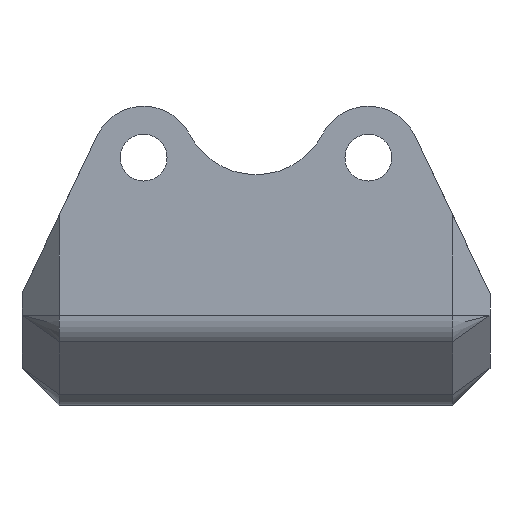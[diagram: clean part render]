
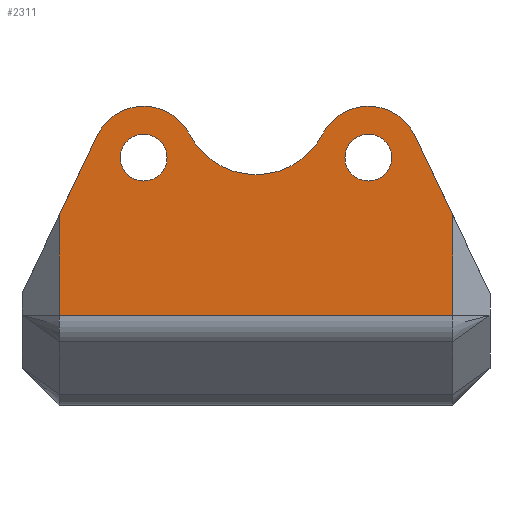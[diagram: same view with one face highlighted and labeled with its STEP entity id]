
A CAD part, front view. The second image highlights one B-rep face of the part: STEP entity #2311.
In plain terms, the highlighted planar face has unit normal (0, -1, 0).
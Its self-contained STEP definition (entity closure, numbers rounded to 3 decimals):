
#3 = VECTOR ( 'NONE', #1896, 1000. ) ;
#34 = VERTEX_POINT ( 'NONE', #1044 ) ;
#62 = VERTEX_POINT ( 'NONE', #460 ) ;
#104 = CARTESIAN_POINT ( 'NONE',  ( 0., -16.75, 13.342 ) ) ;
#118 = CIRCLE ( 'NONE', #1735, 4. ) ;
#136 = VERTEX_POINT ( 'NONE', #2344 ) ;
#140 = CARTESIAN_POINT ( 'NONE',  ( -6., -16.75, 10.25 ) ) ;
#179 = ORIENTED_EDGE ( 'NONE', *, *, #727, .F. ) ;
#215 = LINE ( 'NONE', #2619, #1823 ) ;
#232 = EDGE_CURVE ( 'NONE', #1417, #2103, #2556, .T. ) ;
#263 = ORIENTED_EDGE ( 'NONE', *, *, #232, .T. ) ;
#309 = CARTESIAN_POINT ( 'NONE',  ( -6., -16.75, 10.25 ) ) ;
#399 = EDGE_CURVE ( 'NONE', #1670, #136, #1821, .T. ) ;
#432 = CIRCLE ( 'NONE', #1317, 1.25 ) ;
#435 = ORIENTED_EDGE ( 'NONE', *, *, #522, .T. ) ;
#460 = CARTESIAN_POINT ( 'NONE',  ( -10.5, -16.75, 7.198 ) ) ;
#467 = EDGE_LOOP ( 'NONE', ( #435, #1178, #1409, #1774, #263, #1226, #179, #1834, #2136 ) ) ;
#468 = LINE ( 'NONE', #872, #1941 ) ;
#472 = CARTESIAN_POINT ( 'NONE',  ( -3.556, -16.75, 11.51 ) ) ;
#487 = EDGE_CURVE ( 'NONE', #34, #981, #1860, .T. ) ;
#522 = EDGE_CURVE ( 'NONE', #136, #62, #468, .T. ) ;
#524 = EDGE_CURVE ( 'NONE', #1670, #2465, #118, .T. ) ;
#543 = ORIENTED_EDGE ( 'NONE', *, *, #2495, .T. ) ;
#555 = DIRECTION ( 'NONE',  ( 0., 0., 1. ) ) ;
#560 = DIRECTION ( 'NONE',  ( 0., -1., 0. ) ) ;
#578 = VERTEX_POINT ( 'NONE', #672 ) ;
#579 = FACE_OUTER_BOUND ( 'NONE', #467, .T. ) ;
#594 = CARTESIAN_POINT ( 'NONE',  ( 6., -16.75, 11.5 ) ) ;
#655 = VERTEX_POINT ( 'NONE', #2363 ) ;
#659 = EDGE_CURVE ( 'NONE', #1340, #655, #1775, .T. ) ;
#672 = CARTESIAN_POINT ( 'NONE',  ( 6., -16.75, 9. ) ) ;
#684 = DIRECTION ( 'NONE',  ( 0., 0., -1. ) ) ;
#686 = DIRECTION ( 'NONE',  ( 0., 0., -1. ) ) ;
#689 = CARTESIAN_POINT ( 'NONE',  ( 11.353, -16.75, 5.408 ) ) ;
#727 = EDGE_CURVE ( 'NONE', #2465, #1579, #1567, .T. ) ;
#748 = CARTESIAN_POINT ( 'NONE',  ( -12.5, -16.75, 3. ) ) ;
#793 = EDGE_CURVE ( 'NONE', #62, #34, #215, .T. ) ;
#828 = CARTESIAN_POINT ( 'NONE',  ( 8.483, -16.75, 11.433 ) ) ;
#841 = EDGE_CURVE ( 'NONE', #578, #2285, #2463, .T. ) ;
#872 = CARTESIAN_POINT ( 'NONE',  ( -11.353, -16.75, 5.408 ) ) ;
#874 = CARTESIAN_POINT ( 'NONE',  ( 10.5, -16.75, 3. ) ) ;
#893 = CARTESIAN_POINT ( 'NONE',  ( 0., -16.75, 13.342 ) ) ;
#907 = CARTESIAN_POINT ( 'NONE',  ( 6., -16.75, 10.25 ) ) ;
#918 = DIRECTION ( 'NONE',  ( 0., -1., 0. ) ) ;
#936 = CARTESIAN_POINT ( 'NONE',  ( 6., -16.75, 10.25 ) ) ;
#970 = VECTOR ( 'NONE', #2527, 1000. ) ;
#981 = VERTEX_POINT ( 'NONE', #1504 ) ;
#986 = DIRECTION ( 'NONE',  ( 0., 0., 1. ) ) ;
#988 = CARTESIAN_POINT ( 'NONE',  ( -6., -16.75, 10.25 ) ) ;
#1044 = CARTESIAN_POINT ( 'NONE',  ( -10.5, -16.75, 1.828 ) ) ;
#1050 = VECTOR ( 'NONE', #1470, 1000. ) ;
#1064 = AXIS2_PLACEMENT_3D ( 'NONE', #907, #918, #686 ) ;
#1077 = DIRECTION ( 'NONE',  ( 0., -1., 0. ) ) ;
#1084 = EDGE_LOOP ( 'NONE', ( #1198, #1614 ) ) ;
#1114 = DIRECTION ( 'NONE',  ( 0., -1., 0. ) ) ;
#1178 = ORIENTED_EDGE ( 'NONE', *, *, #793, .T. ) ;
#1198 = ORIENTED_EDGE ( 'NONE', *, *, #659, .T. ) ;
#1226 = ORIENTED_EDGE ( 'NONE', *, *, #1930, .T. ) ;
#1317 = AXIS2_PLACEMENT_3D ( 'NONE', #988, #1810, #2396 ) ;
#1340 = VERTEX_POINT ( 'NONE', #2088 ) ;
#1357 = AXIS2_PLACEMENT_3D ( 'NONE', #309, #1358, #2165 ) ;
#1358 = DIRECTION ( 'NONE',  ( 0., 1., 0. ) ) ;
#1400 = AXIS2_PLACEMENT_3D ( 'NONE', #104, #1114, #1762 ) ;
#1406 = DIRECTION ( 'NONE',  ( 0., 0., -1. ) ) ;
#1409 = ORIENTED_EDGE ( 'NONE', *, *, #487, .T. ) ;
#1417 = VERTEX_POINT ( 'NONE', #1940 ) ;
#1442 = LINE ( 'NONE', #874, #1050 ) ;
#1470 = DIRECTION ( 'NONE',  ( 0., 0., 1. ) ) ;
#1494 = DIRECTION ( 'NONE',  ( -0.43, 0., -0.903 ) ) ;
#1504 = CARTESIAN_POINT ( 'NONE',  ( 10.5, -16.75, 1.828 ) ) ;
#1567 = CIRCLE ( 'NONE', #1400, 4. ) ;
#1579 = VERTEX_POINT ( 'NONE', #2412 ) ;
#1598 = DIRECTION ( 'NONE',  ( 0., 0., -1. ) ) ;
#1614 = ORIENTED_EDGE ( 'NONE', *, *, #2013, .T. ) ;
#1666 = AXIS2_PLACEMENT_3D ( 'NONE', #936, #2370, #1755 ) ;
#1670 = VERTEX_POINT ( 'NONE', #472 ) ;
#1719 = EDGE_LOOP ( 'NONE', ( #543, #2368 ) ) ;
#1735 = AXIS2_PLACEMENT_3D ( 'NONE', #893, #1077, #684 ) ;
#1755 = DIRECTION ( 'NONE',  ( 0., 0., 1. ) ) ;
#1761 = FACE_BOUND ( 'NONE', #1084, .T. ) ;
#1762 = DIRECTION ( 'NONE',  ( 0., 0., -1. ) ) ;
#1770 = EDGE_CURVE ( 'NONE', #981, #1417, #1442, .T. ) ;
#1774 = ORIENTED_EDGE ( 'NONE', *, *, #1770, .T. ) ;
#1775 = CIRCLE ( 'NONE', #1357, 1.25 ) ;
#1810 = DIRECTION ( 'NONE',  ( 0., 1., 0. ) ) ;
#1821 = CIRCLE ( 'NONE', #2497, 2.75 ) ;
#1823 = VECTOR ( 'NONE', #1598, 1000. ) ;
#1834 = ORIENTED_EDGE ( 'NONE', *, *, #524, .F. ) ;
#1845 = CARTESIAN_POINT ( 'NONE',  ( 0., -16.75, 9.342 ) ) ;
#1860 = LINE ( 'NONE', #2313, #3 ) ;
#1896 = DIRECTION ( 'NONE',  ( 1., 0., 0. ) ) ;
#1930 = EDGE_CURVE ( 'NONE', #2103, #1579, #2085, .T. ) ;
#1940 = CARTESIAN_POINT ( 'NONE',  ( 10.5, -16.75, 7.198 ) ) ;
#1941 = VECTOR ( 'NONE', #1494, 1000. ) ;
#1991 = DIRECTION ( 'NONE',  ( 0., 1., 0. ) ) ;
#2013 = EDGE_CURVE ( 'NONE', #655, #1340, #432, .T. ) ;
#2033 = FACE_BOUND ( 'NONE', #1719, .T. ) ;
#2085 = CIRCLE ( 'NONE', #1064, 2.75 ) ;
#2088 = CARTESIAN_POINT ( 'NONE',  ( -6., -16.75, 11.5 ) ) ;
#2089 = CIRCLE ( 'NONE', #1666, 1.25 ) ;
#2103 = VERTEX_POINT ( 'NONE', #828 ) ;
#2136 = ORIENTED_EDGE ( 'NONE', *, *, #399, .T. ) ;
#2165 = DIRECTION ( 'NONE',  ( 0., 0., 1. ) ) ;
#2204 = CARTESIAN_POINT ( 'NONE',  ( 6., -16.75, 10.25 ) ) ;
#2205 = AXIS2_PLACEMENT_3D ( 'NONE', #2204, #2406, #986 ) ;
#2285 = VERTEX_POINT ( 'NONE', #594 ) ;
#2311 = ADVANCED_FACE ( 'NONE', ( #2033, #1761, #579 ), #2573, .F. ) ;
#2313 = CARTESIAN_POINT ( 'NONE',  ( 12.5, -16.75, 1.828 ) ) ;
#2344 = CARTESIAN_POINT ( 'NONE',  ( -8.483, -16.75, 11.433 ) ) ;
#2363 = CARTESIAN_POINT ( 'NONE',  ( -6., -16.75, 9. ) ) ;
#2368 = ORIENTED_EDGE ( 'NONE', *, *, #841, .T. ) ;
#2370 = DIRECTION ( 'NONE',  ( 0., 1., 0. ) ) ;
#2396 = DIRECTION ( 'NONE',  ( 0., 0., 1. ) ) ;
#2406 = DIRECTION ( 'NONE',  ( 0., 1., 0. ) ) ;
#2412 = CARTESIAN_POINT ( 'NONE',  ( 3.556, -16.75, 11.51 ) ) ;
#2463 = CIRCLE ( 'NONE', #2205, 1.25 ) ;
#2465 = VERTEX_POINT ( 'NONE', #1845 ) ;
#2495 = EDGE_CURVE ( 'NONE', #2285, #578, #2089, .T. ) ;
#2497 = AXIS2_PLACEMENT_3D ( 'NONE', #140, #560, #1406 ) ;
#2505 = AXIS2_PLACEMENT_3D ( 'NONE', #748, #1991, #555 ) ;
#2527 = DIRECTION ( 'NONE',  ( -0.43, 0., 0.903 ) ) ;
#2556 = LINE ( 'NONE', #689, #970 ) ;
#2573 = PLANE ( 'NONE',  #2505 ) ;
#2619 = CARTESIAN_POINT ( 'NONE',  ( -10.5, -16.75, 3. ) ) ;
